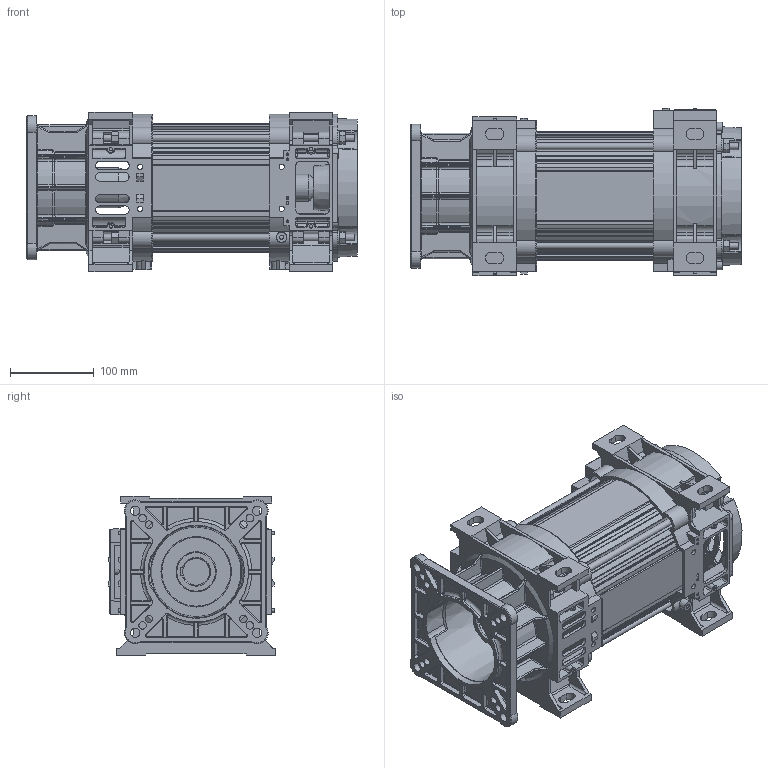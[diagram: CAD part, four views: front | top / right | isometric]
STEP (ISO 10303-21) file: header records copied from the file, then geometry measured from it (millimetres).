
FILE_DESCRIPTION(/* description */ ('Motore Tipo S4X Fl.111.1 F32-H160 NO Volano NO Piedi'),/* implementation_level */ '2;1');
FILE_NAME(/* name */ 'Y:\ServerTecnico\Mockup Motori x Sito Elmo\Mockup Tipo S4X Size 1 FL111 F32-H160 NO Volano.stp',/* time_stamp */ '2016-10-06T09:26:07+02:00',/* author */ ('aparmini'),/* organization */ (''),/* preprocessor_version */ 'ST-DEVELOPER v16.5',/* originating_system */ 'Autodesk Inventor 2017',/* authorisation */ '');
FILE_SCHEMA (('AUTOMOTIVE_DESIGN { 1 0 10303 214 3 1 1 }'));
Products named in the file (8): Mockup Tipo S4X Size 1 FL111 F32-H160 NO Volano; Mockup Statore Size 1 - F32-H160 NO Volano; TGS10; Mockup CA1SD111N; Mockup CP1XD040N; TI08ML300; UNI 5587 - M8; DIN 125-2 - B 8,4
Assembly tree (20 placements, depth 2):
  Mockup Tipo S4X Size 1 FL111 F32-H160 NO Volano
    Mockup Statore Size 1 - F32-H160 NO Volano
    TGS10
    Mockup CA1SD111N
    Mockup CP1XD040N
    UNI 5587 - M8  x8
    TI08ML300  x4
    DIN 125-2 - B 8,4  x4
Bounding box: 394 x 200 x 190 mm (x, y, z)
Volume: 4752352.8 mm3; surface area: 773338.7 mm2
Topology: 20 solids, 20 shells, 2588 faces, 7036 edges, 4479 vertices
Faces by surface type: plane 1009, cylinder 966, bspline 251, cone 246, torus 100, sphere 16
Full cylindrical faces by diameter (mm): 3.2 x5, 4 x8, 4.917 x2, 5 x4, 6.2 x8, 6.647 x8, 8 x4, 8.4 x4, 9 x8, 10 x8, 11 x4, 12 x4, 16 x4, 17 x1, 21 x1, 32 x2, 38 x1, 48 x1, 82 x1
Entity records: 82949 total; most frequent: CARTESIAN_POINT 21117, DIRECTION 13108, ORIENTED_EDGE 13014, EDGE_CURVE 6495, AXIS2_PLACEMENT_3D 4905, VERTEX_POINT 4230, LINE 3298, VECTOR 3298
